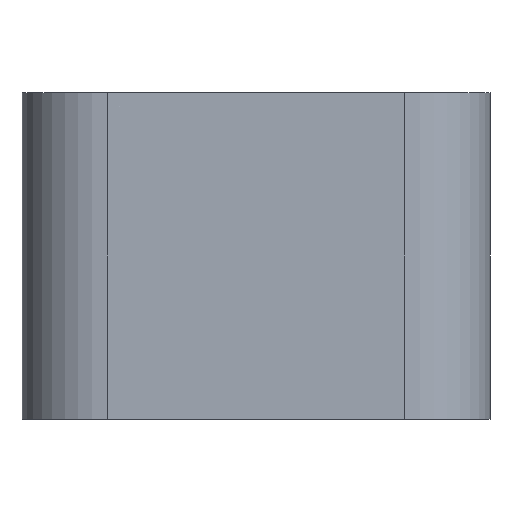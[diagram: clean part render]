
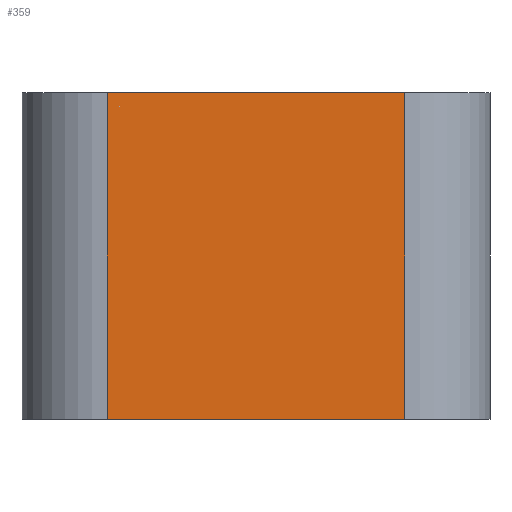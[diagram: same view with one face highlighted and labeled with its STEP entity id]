
A CAD part, front view. The second image highlights one B-rep face of the part: STEP entity #359.
In plain terms, the highlighted planar face has unit normal (0, -1, 0).
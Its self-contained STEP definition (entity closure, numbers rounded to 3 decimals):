
#88=ORIENTED_EDGE('',*,*,#156,.T.);
#89=ORIENTED_EDGE('',*,*,#171,.F.);
#90=ORIENTED_EDGE('',*,*,#172,.F.);
#91=ORIENTED_EDGE('',*,*,#169,.T.);
#156=EDGE_CURVE('',#202,#201,#232,.T.);
#169=EDGE_CURVE('',#210,#202,#240,.T.);
#171=EDGE_CURVE('',#211,#201,#241,.T.);
#172=EDGE_CURVE('',#210,#211,#242,.T.);
#201=VERTEX_POINT('',#568);
#202=VERTEX_POINT('',#570);
#210=VERTEX_POINT('',#595);
#211=VERTEX_POINT('',#599);
#232=LINE('',#569,#258);
#240=LINE('',#594,#266);
#241=LINE('',#598,#267);
#242=LINE('',#600,#268);
#258=VECTOR('',#452,1000.);
#266=VECTOR('',#478,1000.);
#267=VECTOR('',#483,1000.);
#268=VECTOR('',#484,1000.);
#282=EDGE_LOOP('',(#88,#89,#90,#91));
#316=FACE_BOUND('',#282,.T.);
#345=PLANE('',#403);
#359=ADVANCED_FACE('',(#316),#345,.F.);
#403=AXIS2_PLACEMENT_3D('',#597,#481,#482);
#452=DIRECTION('',(1.,0.,0.));
#478=DIRECTION('',(0.,0.,-1.));
#481=DIRECTION('',(0.,1.,0.));
#482=DIRECTION('',(0.,0.,1.));
#483=DIRECTION('',(0.,0.,-1.));
#484=DIRECTION('',(1.,0.,0.));
#568=CARTESIAN_POINT('',(54.,0.,0.));
#569=CARTESIAN_POINT('',(12.,0.,0.));
#570=CARTESIAN_POINT('',(12.,0.,0.));
#594=CARTESIAN_POINT('',(12.,0.,46.));
#595=CARTESIAN_POINT('',(12.,0.,46.));
#597=CARTESIAN_POINT('',(12.,0.,46.));
#598=CARTESIAN_POINT('',(54.,0.,46.));
#599=CARTESIAN_POINT('',(54.,0.,46.));
#600=CARTESIAN_POINT('',(12.,0.,46.));
